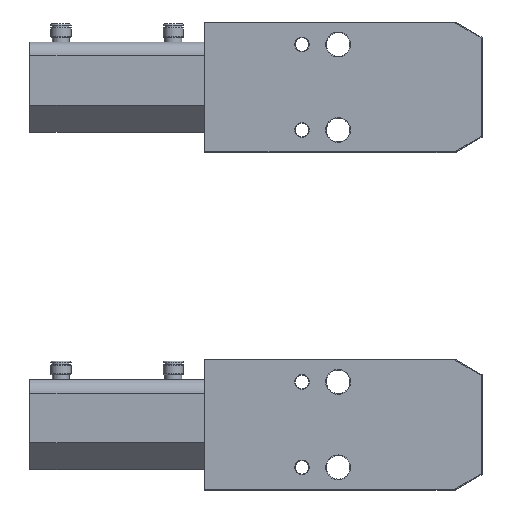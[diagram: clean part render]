
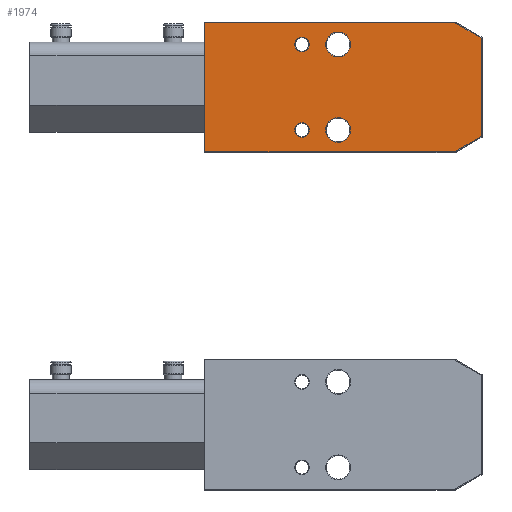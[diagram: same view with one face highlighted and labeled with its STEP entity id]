
A CAD part, top view. The second image highlights one B-rep face of the part: STEP entity #1974.
In plain terms, the highlighted planar face has unit normal (0, 0, 1).
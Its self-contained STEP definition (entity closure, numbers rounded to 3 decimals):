
#1974=ADVANCED_FACE('',(#4239,#4240,#4241,#4242,#4243),#4244,.T.);
#4239=FACE_OUTER_BOUND('',#7082,.T.);
#4240=FACE_BOUND('',#7083,.T.);
#4241=FACE_BOUND('',#7084,.T.);
#4242=FACE_BOUND('',#7085,.T.);
#4243=FACE_BOUND('',#7086,.T.);
#4244=PLANE('',#7087);
#7082=EDGE_LOOP('',(#12990,#12991,#12992,#12993,#12994,#12995));
#7083=EDGE_LOOP('',(#12996));
#7084=EDGE_LOOP('',(#12997));
#7085=EDGE_LOOP('',(#12998));
#7086=EDGE_LOOP('',(#12999));
#7087=AXIS2_PLACEMENT_3D('',#13000,#13001,#13002);
#12990=ORIENTED_EDGE('',*,*,#17677,.T.);
#12991=ORIENTED_EDGE('',*,*,#17678,.T.);
#12992=ORIENTED_EDGE('',*,*,#17679,.T.);
#12993=ORIENTED_EDGE('',*,*,#17680,.T.);
#12994=ORIENTED_EDGE('',*,*,#17681,.T.);
#12995=ORIENTED_EDGE('',*,*,#17682,.T.);
#12996=ORIENTED_EDGE('',*,*,#17683,.T.);
#12997=ORIENTED_EDGE('',*,*,#17684,.T.);
#12998=ORIENTED_EDGE('',*,*,#17685,.T.);
#12999=ORIENTED_EDGE('',*,*,#17686,.T.);
#13000=CARTESIAN_POINT('',(1509.5,139.0,47.));
#13001=DIRECTION('',(0.,0.,1.0));
#13002=DIRECTION('',(0.0,-1.0,0.));
#17677=EDGE_CURVE('',#21580,#21581,#21582,.T.);
#17678=EDGE_CURVE('',#21581,#21583,#21584,.T.);
#17679=EDGE_CURVE('',#21583,#21585,#21586,.T.);
#17680=EDGE_CURVE('',#21585,#21587,#21588,.T.);
#17681=EDGE_CURVE('',#21587,#21589,#21590,.T.);
#17682=EDGE_CURVE('',#21589,#21580,#21591,.T.);
#17683=EDGE_CURVE('',#21592,#21592,#21593,.T.);
#17684=EDGE_CURVE('',#21594,#21594,#21595,.T.);
#17685=EDGE_CURVE('',#21596,#21596,#21597,.T.);
#17686=EDGE_CURVE('',#21598,#21598,#21599,.T.);
#21580=VERTEX_POINT('',#27727);
#21581=VERTEX_POINT('',#27728);
#21582=LINE('',#27729,#27730);
#21583=VERTEX_POINT('',#27731);
#21584=LINE('',#27732,#27733);
#21585=VERTEX_POINT('',#27734);
#21586=LINE('',#27735,#27736);
#21587=VERTEX_POINT('',#27737);
#21588=LINE('',#27738,#27739);
#21589=VERTEX_POINT('',#27740);
#21590=LINE('',#27741,#27742);
#21591=LINE('',#27743,#27744);
#21592=VERTEX_POINT('',#27745);
#21593=CIRCLE('',#27746,3.25);
#21594=VERTEX_POINT('',#27747);
#21595=CIRCLE('',#27748,3.25);
#21596=VERTEX_POINT('',#27749);
#21597=CIRCLE('',#27750,5.5);
#21598=VERTEX_POINT('',#27751);
#21599=CIRCLE('',#27752,5.5);
#27727=CARTESIAN_POINT('',(0.25,150.25,47.));
#27728=CARTESIAN_POINT('',(111.25,150.25,47.));
#27729=CARTESIAN_POINT('',(106.113,150.25,47.));
#27730=VECTOR('',#30651,1.0);
#27731=CARTESIAN_POINT('',(123.25,157.178,47.));
#27732=CARTESIAN_POINT('',(1155.066,752.898,47.));
#27733=VECTOR('',#30652,1.0);
#27734=CARTESIAN_POINT('',(123.25,200.822,47.));
#27735=CARTESIAN_POINT('',(123.25,197.856,47.));
#27736=VECTOR('',#30653,1.0);
#27737=CARTESIAN_POINT('',(111.25,207.75,47.));
#27738=CARTESIAN_POINT('',(1189.707,-414.898,47.));
#27739=VECTOR('',#30654,1.0);
#27740=CARTESIAN_POINT('',(0.25,207.75,47.));
#27741=CARTESIAN_POINT('',(-12.25,207.75,47.));
#27742=VECTOR('',#30655,1.0);
#27743=CARTESIAN_POINT('',(0.25,150.25,47.));
#27744=VECTOR('',#30656,1.0);
#27745=CARTESIAN_POINT('',(40.25,160.0,47.));
#27746=AXIS2_PLACEMENT_3D('',#30657,#30658,#30659);
#27747=CARTESIAN_POINT('',(40.25,198.0,47.));
#27748=AXIS2_PLACEMENT_3D('',#30660,#30661,#30662);
#27749=CARTESIAN_POINT('',(54.,160.0,47.));
#27750=AXIS2_PLACEMENT_3D('',#30663,#30664,#30665);
#27751=CARTESIAN_POINT('',(54.,198.0,47.));
#27752=AXIS2_PLACEMENT_3D('',#30666,#30667,#30668);
#30651=DIRECTION('',(1.0,0.0,0.));
#30652=DIRECTION('',(0.866,0.5,0.));
#30653=DIRECTION('',(0.0,1.0,0.));
#30654=DIRECTION('',(-0.866,0.5,0.));
#30655=DIRECTION('',(-1.0,0.0,0.));
#30656=DIRECTION('',(0.0,-1.0,0.));
#30657=CARTESIAN_POINT('',(43.5,160.0,47.));
#30658=DIRECTION('',(0.,0.,-1.0));
#30659=DIRECTION('',(-1.0,0.0,0.));
#30660=CARTESIAN_POINT('',(43.5,198.0,47.));
#30661=DIRECTION('',(0.,0.,-1.0));
#30662=DIRECTION('',(-1.0,0.0,0.));
#30663=CARTESIAN_POINT('',(59.5,160.0,47.));
#30664=DIRECTION('',(0.,0.,-1.0));
#30665=DIRECTION('',(-1.0,0.0,0.));
#30666=CARTESIAN_POINT('',(59.5,198.0,47.));
#30667=DIRECTION('',(0.,0.,-1.0));
#30668=DIRECTION('',(-1.0,0.0,0.));
